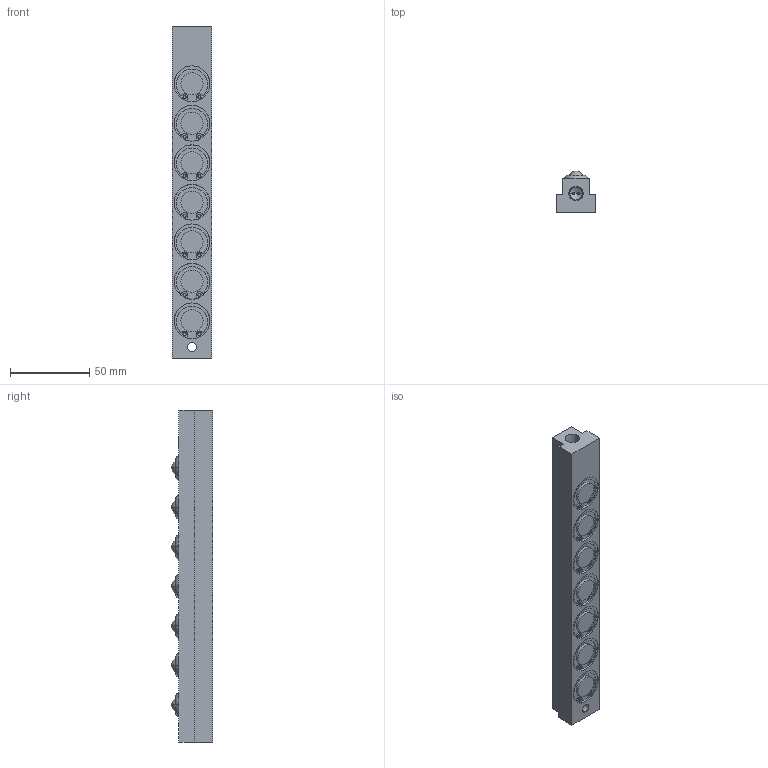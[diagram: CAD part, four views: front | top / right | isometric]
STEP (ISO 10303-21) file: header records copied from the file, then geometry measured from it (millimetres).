
FILE_DESCRIPTION (( 'STEP AP203' ), '1' );
FILE_NAME ('PVL13T-7.STEP', '2015-12-24T05:13:02', ( '' ), ( '' ), 'SwSTEP 2.0', 'SolidWorks 2013', '' );
FILE_SCHEMA (( 'CONFIG_CONTROL_DESIGN' ));
Length unit declared in the file: millimetre
Products named in the file (1): PVL13T-7
Bounding box: 25 x 26.26 x 210 mm (x, y, z)
Volume: 94810.7 mm3; surface area: 23562.4 mm2
Topology: 2 solids, 2 shells, 236 faces, 561 edges, 373 vertices
Faces by surface type: cylinder 122, plane 78, torus 14, sphere 14, cone 8
Entity records: 7056 total; most frequent: DIRECTION 1367, CARTESIAN_POINT 1167, ORIENTED_EDGE 1114, AXIS2_PLACEMENT_3D 573, EDGE_CURVE 557, VERTEX_POINT 373, CIRCLE 336, EDGE_LOOP 286
